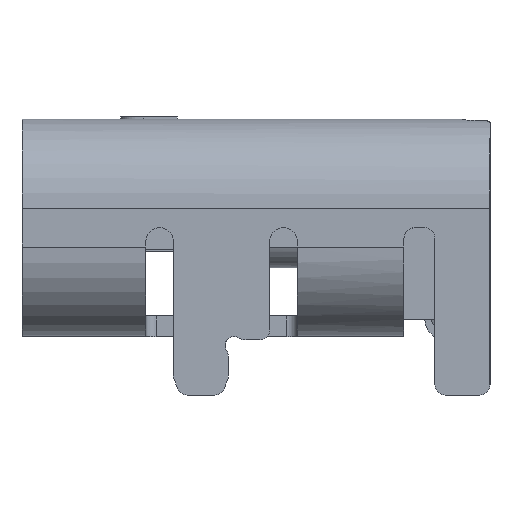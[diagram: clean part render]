
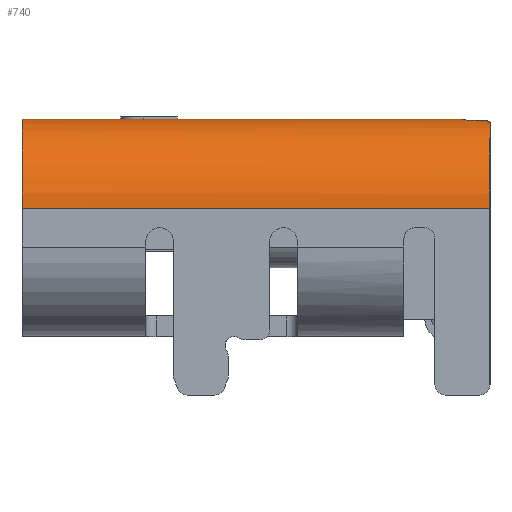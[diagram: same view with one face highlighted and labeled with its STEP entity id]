
A CAD part, left-side view. The second image highlights one B-rep face of the part: STEP entity #740.
In plain terms, the highlighted cylindrical face has radius 1.3 mm (diameter 2.6 mm), a partial arc.
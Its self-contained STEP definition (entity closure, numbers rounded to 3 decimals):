
#333 = VERTEX_POINT ( 'NONE', #18950 ) ;
#740 = ADVANCED_FACE ( 'NONE', ( #22875 ), #25054, .T. ) ;
#1082 = CARTESIAN_POINT ( 'NONE',  ( -3.354, -6.443, -0.013 ) ) ;
#1194 = DIRECTION ( 'NONE',  ( -1., 0., 0. ) ) ;
#1267 = CARTESIAN_POINT ( 'NONE',  ( -3.48, -6.786, -0.037 ) ) ;
#1453 = CARTESIAN_POINT ( 'NONE',  ( -3.258, -6.4, -0.003 ) ) ;
#1514 = ORIENTED_EDGE ( 'NONE', *, *, #24653, .F. ) ;
#1600 = VERTEX_POINT ( 'NONE', #4066 ) ;
#2948 = EDGE_CURVE ( 'NONE', #8939, #10002, #15741, .T. ) ;
#3312 = CARTESIAN_POINT ( 'NONE',  ( -3.404, -6.7, -0.021 ) ) ;
#3370 = CARTESIAN_POINT ( 'NONE',  ( -3.27, -6.401, -0.004 ) ) ;
#3420 = LINE ( 'NONE', #13102, #11921 ) ;
#3961 = VERTEX_POINT ( 'NONE', #22772 ) ;
#4036 = CARTESIAN_POINT ( 'NONE',  ( -3.396, -6.8, -0.02 ) ) ;
#4066 = CARTESIAN_POINT ( 'NONE',  ( -3.247, -6.4, -0.002 ) ) ;
#4164 = CARTESIAN_POINT ( 'NONE',  ( -4.47, 0., -1.3 ) ) ;
#4293 = ORIENTED_EDGE ( 'NONE', *, *, #2948, .T. ) ;
#5107 = CARTESIAN_POINT ( 'NONE',  ( -3.4, -6.684, -0.021 ) ) ;
#5562 = LINE ( 'NONE', #23148, #19644 ) ;
#5599 = DIRECTION ( 'NONE',  ( -1., 0., 0. ) ) ;
#5877 = B_SPLINE_CURVE_WITH_KNOTS ( 'NONE', 3,
 ( #24622, #24751, #20781, #13254, #1267, #16942, #7265, #12751, #21041, #17069, #11342, #3312, #5107, #20659, #19122, #18863 ),
 .UNSPECIFIED., .F., .F.,
 ( 4, 3, 3, 3, 3, 4 ),
 ( 0., 0., 0., 0., 0., 0. ),
 .UNSPECIFIED. ) ;
#7068 = CARTESIAN_POINT ( 'NONE',  ( -3.327, -6.423, -0.009 ) ) ;
#7195 = CARTESIAN_POINT ( 'NONE',  ( -3.281, -6.404, -0.005 ) ) ;
#7249 = EDGE_CURVE ( 'NONE', #22267, #8939, #5562, .T. ) ;
#7265 = CARTESIAN_POINT ( 'NONE',  ( -3.452, -6.767, -0.031 ) ) ;
#7439 = AXIS2_PLACEMENT_3D ( 'NONE', #21809, #16548, #10941 ) ;
#7507 = DIRECTION ( 'NONE',  ( 0., 1., 0. ) ) ;
#7576 = CARTESIAN_POINT ( 'NONE',  ( -3.17, -6.8, -1.3 ) ) ;
#8187 = AXIS2_PLACEMENT_3D ( 'NONE', #24986, #7507, #5599 ) ;
#8939 = VERTEX_POINT ( 'NONE', #16493 ) ;
#9886 = DIRECTION ( 'NONE',  ( -1., 0., 0. ) ) ;
#10002 = VERTEX_POINT ( 'NONE', #10518 ) ;
#10518 = CARTESIAN_POINT ( 'NONE',  ( -3.543, -6.8, -0.055 ) ) ;
#10941 = DIRECTION ( 'NONE',  ( -1., 0., 0. ) ) ;
#11016 = CARTESIAN_POINT ( 'NONE',  ( -3.297, -6.407, -0.006 ) ) ;
#11198 = DIRECTION ( 'NONE',  ( 0., 1., 0. ) ) ;
#11342 = CARTESIAN_POINT ( 'NONE',  ( -3.41, -6.716, -0.022 ) ) ;
#11378 = EDGE_CURVE ( 'NONE', #3961, #22927, #14875, .T. ) ;
#11544 = ORIENTED_EDGE ( 'NONE', *, *, #11378, .T. ) ;
#11850 = EDGE_CURVE ( 'NONE', #1600, #22694, #17558, .T. ) ;
#11921 = VECTOR ( 'NONE', #11198, 1000. ) ;
#12751 = CARTESIAN_POINT ( 'NONE',  ( -3.439, -6.757, -0.028 ) ) ;
#12784 = EDGE_LOOP ( 'NONE', ( #19864, #4293, #20373, #11544, #15588, #23619, #18818, #1514 ) ) ;
#12929 = CARTESIAN_POINT ( 'NONE',  ( -3.394, -6.516, -0.019 ) ) ;
#13052 = CARTESIAN_POINT ( 'NONE',  ( -3.396, -6.533, -0.02 ) ) ;
#13102 = CARTESIAN_POINT ( 'NONE',  ( -3.17, -6.8, 0. ) ) ;
#13254 = CARTESIAN_POINT ( 'NONE',  ( -3.495, -6.792, -0.041 ) ) ;
#14763 = EDGE_CURVE ( 'NONE', #10002, #3961, #5877, .T. ) ;
#14875 = LINE ( 'NONE', #4036, #18334 ) ;
#15080 = CARTESIAN_POINT ( 'NONE',  ( -3.388, -6.5, -0.018 ) ) ;
#15339 = DIRECTION ( 'NONE',  ( 0., 1., 0. ) ) ;
#15588 = ORIENTED_EDGE ( 'NONE', *, *, #20308, .T. ) ;
#15738 = DIRECTION ( 'NONE',  ( 0., 1., 0. ) ) ;
#15741 = CIRCLE ( 'NONE', #21446, 1.3 ) ;
#16493 = CARTESIAN_POINT ( 'NONE',  ( -4.47, -6.8, -1.3 ) ) ;
#16498 = CARTESIAN_POINT ( 'NONE',  ( -3.364, -6.456, -0.015 ) ) ;
#16548 = DIRECTION ( 'NONE',  ( 0., 1., 0. ) ) ;
#16616 = CARTESIAN_POINT ( 'NONE',  ( -3.374, -6.469, -0.016 ) ) ;
#16942 = CARTESIAN_POINT ( 'NONE',  ( -3.465, -6.778, -0.034 ) ) ;
#17069 = CARTESIAN_POINT ( 'NONE',  ( -3.419, -6.73, -0.024 ) ) ;
#17397 = DIRECTION ( 'NONE',  ( 0., -1., 0. ) ) ;
#17558 = CIRCLE ( 'NONE', #8187, 1.3 ) ;
#17796 = DIRECTION ( 'NONE',  ( 0., 1., 0. ) ) ;
#18334 = VECTOR ( 'NONE', #17796, 1000. ) ;
#18786 = CARTESIAN_POINT ( 'NONE',  ( -3.247, -6.4, -0.002 ) ) ;
#18818 = ORIENTED_EDGE ( 'NONE', *, *, #24935, .T. ) ;
#18863 = CARTESIAN_POINT ( 'NONE',  ( -3.396, -6.65, -0.02 ) ) ;
#18950 = CARTESIAN_POINT ( 'NONE',  ( -3.17, 0., 0. ) ) ;
#19122 = CARTESIAN_POINT ( 'NONE',  ( -3.396, -6.661, -0.02 ) ) ;
#19644 = VECTOR ( 'NONE', #17397, 1000. ) ;
#19864 = ORIENTED_EDGE ( 'NONE', *, *, #7249, .T. ) ;
#19880 = B_SPLINE_CURVE_WITH_KNOTS ( 'NONE', 3,
 ( #24676, #13052, #12929, #15080, #24549, #16616, #16498, #1082, #20833, #7068, #24305, #11016, #7195, #3370, #1453, #18786 ),
 .UNSPECIFIED., .F., .F.,
 ( 4, 3, 3, 3, 3, 4 ),
 ( 0., 0., 0., 0., 0., 0. ),
 .UNSPECIFIED. ) ;
#19987 = AXIS2_PLACEMENT_3D ( 'NONE', #7576, #15339, #1194 ) ;
#20308 = EDGE_CURVE ( 'NONE', #22927, #1600, #19880, .T. ) ;
#20373 = ORIENTED_EDGE ( 'NONE', *, *, #14763, .T. ) ;
#20659 = CARTESIAN_POINT ( 'NONE',  ( -3.398, -6.673, -0.02 ) ) ;
#20781 = CARTESIAN_POINT ( 'NONE',  ( -3.51, -6.797, -0.045 ) ) ;
#20833 = CARTESIAN_POINT ( 'NONE',  ( -3.341, -6.432, -0.011 ) ) ;
#21041 = CARTESIAN_POINT ( 'NONE',  ( -3.428, -6.744, -0.026 ) ) ;
#21227 = CARTESIAN_POINT ( 'NONE',  ( -3.17, -6.4, 0. ) ) ;
#21446 = AXIS2_PLACEMENT_3D ( 'NONE', #23146, #15738, #9886 ) ;
#21809 = CARTESIAN_POINT ( 'NONE',  ( -3.17, 0., -1.3 ) ) ;
#22097 = CIRCLE ( 'NONE', #7439, 1.3 ) ;
#22267 = VERTEX_POINT ( 'NONE', #4164 ) ;
#22359 = CARTESIAN_POINT ( 'NONE',  ( -3.396, -6.55, -0.02 ) ) ;
#22694 = VERTEX_POINT ( 'NONE', #21227 ) ;
#22772 = CARTESIAN_POINT ( 'NONE',  ( -3.396, -6.65, -0.02 ) ) ;
#22875 = FACE_OUTER_BOUND ( 'NONE', #12784, .T. ) ;
#22927 = VERTEX_POINT ( 'NONE', #22359 ) ;
#23146 = CARTESIAN_POINT ( 'NONE',  ( -3.17, -6.8, -1.3 ) ) ;
#23148 = CARTESIAN_POINT ( 'NONE',  ( -4.47, -6.8, -1.3 ) ) ;
#23619 = ORIENTED_EDGE ( 'NONE', *, *, #11850, .T. ) ;
#24305 = CARTESIAN_POINT ( 'NONE',  ( -3.313, -6.414, -0.008 ) ) ;
#24549 = CARTESIAN_POINT ( 'NONE',  ( -3.383, -6.485, -0.018 ) ) ;
#24622 = CARTESIAN_POINT ( 'NONE',  ( -3.543, -6.8, -0.055 ) ) ;
#24653 = EDGE_CURVE ( 'NONE', #22267, #333, #22097, .T. ) ;
#24676 = CARTESIAN_POINT ( 'NONE',  ( -3.396, -6.55, -0.02 ) ) ;
#24751 = CARTESIAN_POINT ( 'NONE',  ( -3.527, -6.8, -0.05 ) ) ;
#24935 = EDGE_CURVE ( 'NONE', #22694, #333, #3420, .T. ) ;
#24986 = CARTESIAN_POINT ( 'NONE',  ( -3.17, -6.4, -1.3 ) ) ;
#25054 = CYLINDRICAL_SURFACE ( 'NONE', #19987, 1.3 ) ;
